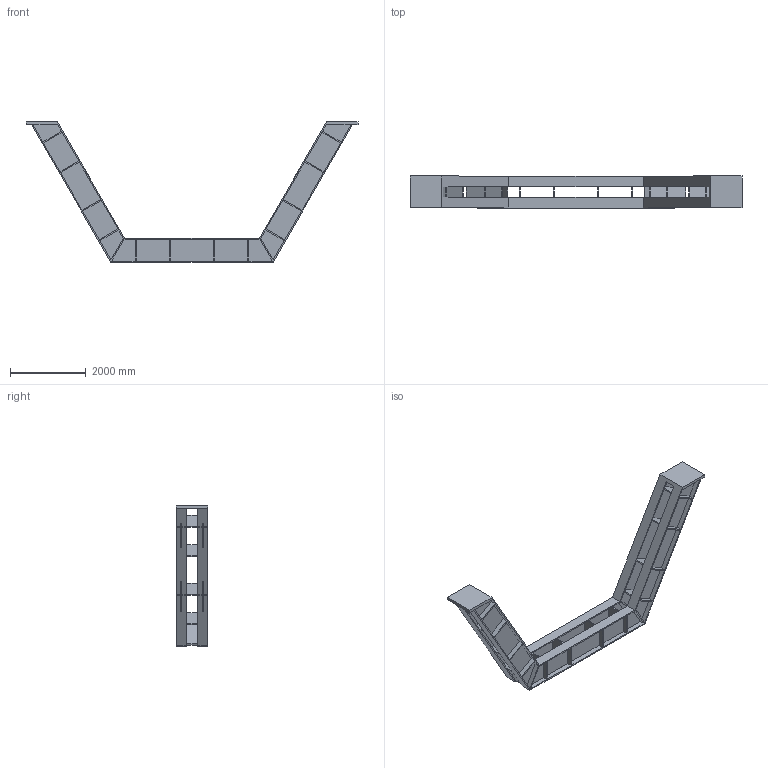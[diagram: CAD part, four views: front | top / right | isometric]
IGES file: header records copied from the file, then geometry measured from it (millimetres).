
Start section:  PTC IGES file: fr_arch.igs
Global section: file name: fr_arch.igs; native system: Pro/ENGINEER by Parametric Technology Corporation; preprocessor: 1999260; author: oshatz; organization: Unknown; date: 000922.101448; units: millimetre
Bounding box: 8752.6 x 840 x 3703.38 mm (x, y, z)
Surface area: 69621870.9 mm2 (no closed solid volume)
Topology: 0 solids, 0 shells, 318 faces, 1672 edges, 1672 vertices
Faces by surface type: bspline 318
